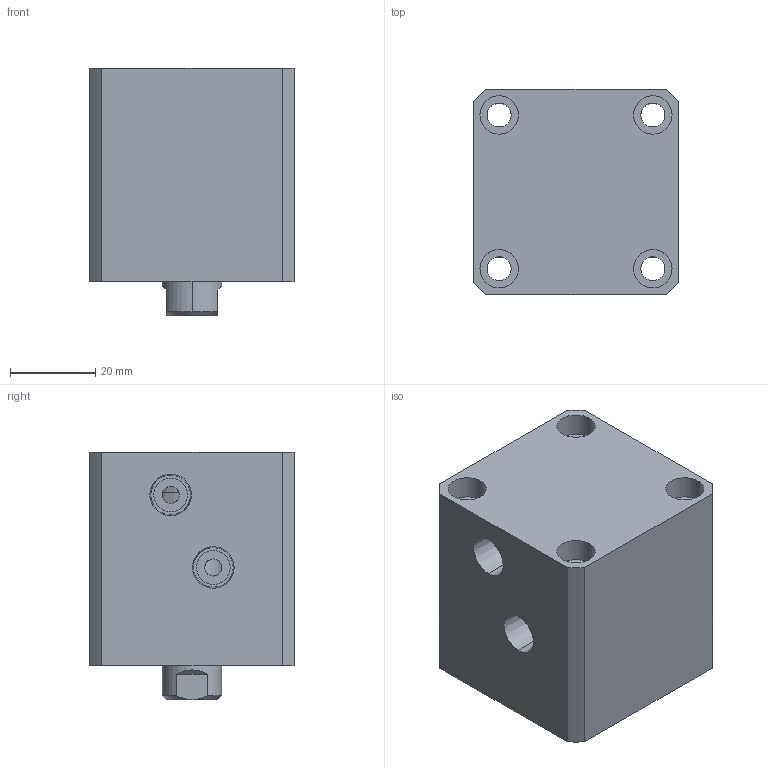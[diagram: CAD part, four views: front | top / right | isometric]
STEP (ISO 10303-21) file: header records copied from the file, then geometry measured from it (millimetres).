
FILE_DESCRIPTION (( 'STEP AP214' ), '1' );
FILE_NAME ('chtb-sd25x5n_asm.STEP', '2018-05-22T11:04:21', ( 'Windows' ), ( 'Microsoft' ), 'SwSTEP 2.0', 'SolidWorks 2015', '' );
FILE_SCHEMA (( 'AUTOMOTIVE_DESIGN' ));
Length unit declared in the file: millimetre
Products named in the file (4): CHTB-SD25X5NHSG; CHTB-SD25X5NBT; CHTB-25QG; chtb-sd25x5n_asm
Assembly tree (3 placements, depth 2):
  chtb-sd25x5n_asm
    CHTB-25QG
    CHTB-SD25X5NBT
    CHTB-SD25X5NHSG
Bounding box: 48 x 48 x 58 mm (x, y, z)
Volume: 103554.9 mm3; surface area: 31644.3 mm2
Topology: 3 solids, 3 shells, 144 faces, 377 edges, 257 vertices
Faces by surface type: cylinder 85, plane 36, cone 13, bspline 10
Entity records: 7940 total; most frequent: CARTESIAN_POINT 4299, ORIENTED_EDGE 742, DIRECTION 671, EDGE_CURVE 371, AXIS2_PLACEMENT_3D 278, VERTEX_POINT 257, EDGE_LOOP 182, ADVANCED_FACE 144
